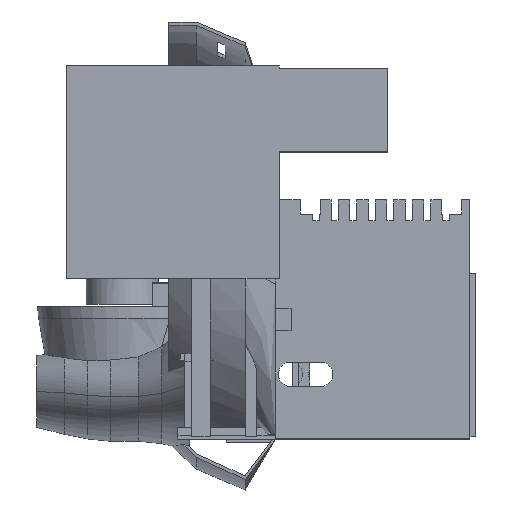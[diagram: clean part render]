
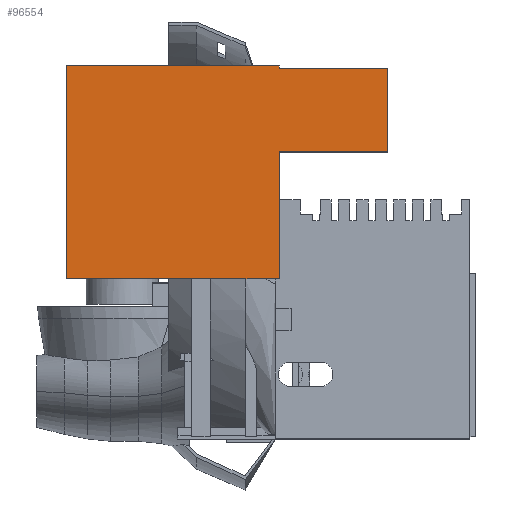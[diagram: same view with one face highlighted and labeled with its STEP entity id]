
A CAD part, front view. The second image highlights one B-rep face of the part: STEP entity #96554.
In plain terms, the highlighted planar face has unit normal (0, -1, 0).
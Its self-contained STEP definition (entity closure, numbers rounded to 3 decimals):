
#18044 = PLANE('',#18045);
#18045 = AXIS2_PLACEMENT_3D('',#18046,#18047,#18048);
#18046 = CARTESIAN_POINT('',(-101.379,-104.444,109.));
#18047 = DIRECTION('',(-0.,-0.,-1.));
#18048 = DIRECTION('',(-1.,0.,0.));
#50132 = VERTEX_POINT('',#50133);
#50133 = CARTESIAN_POINT('',(-62.4,-114.,109.));
#50147 = PLANE('',#50148);
#50148 = AXIS2_PLACEMENT_3D('',#50149,#50150,#50151);
#50149 = CARTESIAN_POINT('',(-62.4,-109.663,165.263));
#50150 = DIRECTION('',(1.,0.,0.));
#50151 = DIRECTION('',(0.,0.,1.));
#50159 = EDGE_CURVE('',#50160,#50132,#50162,.T.);
#50160 = VERTEX_POINT('',#50161);
#50161 = CARTESIAN_POINT('',(-154.,-114.,109.));
#50162 = SURFACE_CURVE('',#50163,(#50167,#50174),.PCURVE_S1.);
#50163 = LINE('',#50164,#50165);
#50164 = CARTESIAN_POINT('',(-154.,-114.,109.));
#50165 = VECTOR('',#50166,1.);
#50166 = DIRECTION('',(1.,0.,0.));
#50167 = PCURVE('',#18044,#50168);
#50168 = DEFINITIONAL_REPRESENTATION('',(#50169),#50173);
#50169 = LINE('',#50170,#50171);
#50170 = CARTESIAN_POINT('',(52.621,-9.556));
#50171 = VECTOR('',#50172,1.);
#50172 = DIRECTION('',(-1.,0.));
#50173 = ( GEOMETRIC_REPRESENTATION_CONTEXT(2) 
PARAMETRIC_REPRESENTATION_CONTEXT() REPRESENTATION_CONTEXT('2D SPACE',''
  ) );
#50174 = PCURVE('',#50175,#50180);
#50175 = PLANE('',#50176);
#50176 = AXIS2_PLACEMENT_3D('',#50177,#50178,#50179);
#50177 = CARTESIAN_POINT('',(-90.442,-114.,160.348));
#50178 = DIRECTION('',(-0.,-1.,-0.));
#50179 = DIRECTION('',(0.,0.,-1.));
#50180 = DEFINITIONAL_REPRESENTATION('',(#50181),#50185);
#50181 = LINE('',#50182,#50183);
#50182 = CARTESIAN_POINT('',(51.348,-63.558));
#50183 = VECTOR('',#50184,1.);
#50184 = DIRECTION('',(0.,1.));
#50185 = ( GEOMETRIC_REPRESENTATION_CONTEXT(2) 
PARAMETRIC_REPRESENTATION_CONTEXT() REPRESENTATION_CONTEXT('2D SPACE',''
  ) );
#50203 = PLANE('',#50204);
#50204 = AXIS2_PLACEMENT_3D('',#50205,#50206,#50207);
#50205 = CARTESIAN_POINT('',(-154.,-109.663,165.263));
#50206 = DIRECTION('',(-1.,-0.,-0.));
#50207 = DIRECTION('',(0.,0.,-1.));
#96506 = EDGE_CURVE('',#50160,#96507,#96509,.T.);
#96507 = VERTEX_POINT('',#96508);
#96508 = CARTESIAN_POINT('',(-154.,-114.,200.8));
#96509 = SURFACE_CURVE('',#96510,(#96514,#96521),.PCURVE_S1.);
#96510 = LINE('',#96511,#96512);
#96511 = CARTESIAN_POINT('',(-154.,-114.,109.));
#96512 = VECTOR('',#96513,1.);
#96513 = DIRECTION('',(0.,0.,1.));
#96514 = PCURVE('',#50203,#96515);
#96515 = DEFINITIONAL_REPRESENTATION('',(#96516),#96520);
#96516 = LINE('',#96517,#96518);
#96517 = CARTESIAN_POINT('',(56.263,4.337));
#96518 = VECTOR('',#96519,1.);
#96519 = DIRECTION('',(-1.,0.));
#96520 = ( GEOMETRIC_REPRESENTATION_CONTEXT(2) 
PARAMETRIC_REPRESENTATION_CONTEXT() REPRESENTATION_CONTEXT('2D SPACE',''
  ) );
#96521 = PCURVE('',#50175,#96522);
#96522 = DEFINITIONAL_REPRESENTATION('',(#96523),#96527);
#96523 = LINE('',#96524,#96525);
#96524 = CARTESIAN_POINT('',(51.348,-63.558));
#96525 = VECTOR('',#96526,1.);
#96526 = DIRECTION('',(-1.,0.));
#96527 = ( GEOMETRIC_REPRESENTATION_CONTEXT(2) 
PARAMETRIC_REPRESENTATION_CONTEXT() REPRESENTATION_CONTEXT('2D SPACE',''
  ) );
#96543 = PLANE('',#96544);
#96544 = AXIS2_PLACEMENT_3D('',#96545,#96546,#96547);
#96545 = CARTESIAN_POINT('',(-108.2,-99.3,200.8));
#96546 = DIRECTION('',(0.,0.,1.));
#96547 = DIRECTION('',(0.,1.,0.));
#96554 = ADVANCED_FACE('',(#96555),#50175,.T.);
#96555 = FACE_BOUND('',#96556,.T.);
#96556 = EDGE_LOOP('',(#96557,#96580,#96608,#96636,#96664,#96692,#96713,
    #96714));
#96557 = ORIENTED_EDGE('',*,*,#96558,.T.);
#96558 = EDGE_CURVE('',#50132,#96559,#96561,.T.);
#96559 = VERTEX_POINT('',#96560);
#96560 = CARTESIAN_POINT('',(-62.4,-114.,163.7));
#96561 = SURFACE_CURVE('',#96562,(#96566,#96573),.PCURVE_S1.);
#96562 = LINE('',#96563,#96564);
#96563 = CARTESIAN_POINT('',(-62.4,-114.,109.));
#96564 = VECTOR('',#96565,1.);
#96565 = DIRECTION('',(0.,0.,1.));
#96566 = PCURVE('',#50175,#96567);
#96567 = DEFINITIONAL_REPRESENTATION('',(#96568),#96572);
#96568 = LINE('',#96569,#96570);
#96569 = CARTESIAN_POINT('',(51.348,28.042));
#96570 = VECTOR('',#96571,1.);
#96571 = DIRECTION('',(-1.,0.));
#96572 = ( GEOMETRIC_REPRESENTATION_CONTEXT(2) 
PARAMETRIC_REPRESENTATION_CONTEXT() REPRESENTATION_CONTEXT('2D SPACE',''
  ) );
#96573 = PCURVE('',#50147,#96574);
#96574 = DEFINITIONAL_REPRESENTATION('',(#96575),#96579);
#96575 = LINE('',#96576,#96577);
#96576 = CARTESIAN_POINT('',(-56.263,4.337));
#96577 = VECTOR('',#96578,1.);
#96578 = DIRECTION('',(1.,0.));
#96579 = ( GEOMETRIC_REPRESENTATION_CONTEXT(2) 
PARAMETRIC_REPRESENTATION_CONTEXT() REPRESENTATION_CONTEXT('2D SPACE',''
  ) );
#96580 = ORIENTED_EDGE('',*,*,#96581,.T.);
#96581 = EDGE_CURVE('',#96559,#96582,#96584,.T.);
#96582 = VERTEX_POINT('',#96583);
#96583 = CARTESIAN_POINT('',(-15.5,-114.,163.7));
#96584 = SURFACE_CURVE('',#96585,(#96589,#96596),.PCURVE_S1.);
#96585 = LINE('',#96586,#96587);
#96586 = CARTESIAN_POINT('',(-66.,-114.,163.7));
#96587 = VECTOR('',#96588,1.);
#96588 = DIRECTION('',(1.,0.,0.));
#96589 = PCURVE('',#50175,#96590);
#96590 = DEFINITIONAL_REPRESENTATION('',(#96591),#96595);
#96591 = LINE('',#96592,#96593);
#96592 = CARTESIAN_POINT('',(-3.352,24.442));
#96593 = VECTOR('',#96594,1.);
#96594 = DIRECTION('',(0.,1.));
#96595 = ( GEOMETRIC_REPRESENTATION_CONTEXT(2) 
PARAMETRIC_REPRESENTATION_CONTEXT() REPRESENTATION_CONTEXT('2D SPACE',''
  ) );
#96596 = PCURVE('',#96597,#96602);
#96597 = PLANE('',#96598);
#96598 = AXIS2_PLACEMENT_3D('',#96599,#96600,#96601);
#96599 = CARTESIAN_POINT('',(-66.,-114.,163.7));
#96600 = DIRECTION('',(0.,0.,1.));
#96601 = DIRECTION('',(1.,0.,0.));
#96602 = DEFINITIONAL_REPRESENTATION('',(#96603),#96607);
#96603 = LINE('',#96604,#96605);
#96604 = CARTESIAN_POINT('',(0.,0.));
#96605 = VECTOR('',#96606,1.);
#96606 = DIRECTION('',(1.,0.));
#96607 = ( GEOMETRIC_REPRESENTATION_CONTEXT(2) 
PARAMETRIC_REPRESENTATION_CONTEXT() REPRESENTATION_CONTEXT('2D SPACE',''
  ) );
#96608 = ORIENTED_EDGE('',*,*,#96609,.T.);
#96609 = EDGE_CURVE('',#96582,#96610,#96612,.T.);
#96610 = VERTEX_POINT('',#96611);
#96611 = CARTESIAN_POINT('',(-15.5,-114.,199.6));
#96612 = SURFACE_CURVE('',#96613,(#96617,#96624),.PCURVE_S1.);
#96613 = LINE('',#96614,#96615);
#96614 = CARTESIAN_POINT('',(-15.5,-114.,163.7));
#96615 = VECTOR('',#96616,1.);
#96616 = DIRECTION('',(0.,0.,1.));
#96617 = PCURVE('',#50175,#96618);
#96618 = DEFINITIONAL_REPRESENTATION('',(#96619),#96623);
#96619 = LINE('',#96620,#96621);
#96620 = CARTESIAN_POINT('',(-3.352,74.942));
#96621 = VECTOR('',#96622,1.);
#96622 = DIRECTION('',(-1.,0.));
#96623 = ( GEOMETRIC_REPRESENTATION_CONTEXT(2) 
PARAMETRIC_REPRESENTATION_CONTEXT() REPRESENTATION_CONTEXT('2D SPACE',''
  ) );
#96624 = PCURVE('',#96625,#96630);
#96625 = PLANE('',#96626);
#96626 = AXIS2_PLACEMENT_3D('',#96627,#96628,#96629);
#96627 = CARTESIAN_POINT('',(-15.5,-107.862,181.66));
#96628 = DIRECTION('',(1.,0.,0.));
#96629 = DIRECTION('',(0.,0.,1.));
#96630 = DEFINITIONAL_REPRESENTATION('',(#96631),#96635);
#96631 = LINE('',#96632,#96633);
#96632 = CARTESIAN_POINT('',(-17.96,6.138));
#96633 = VECTOR('',#96634,1.);
#96634 = DIRECTION('',(1.,0.));
#96635 = ( GEOMETRIC_REPRESENTATION_CONTEXT(2) 
PARAMETRIC_REPRESENTATION_CONTEXT() REPRESENTATION_CONTEXT('2D SPACE',''
  ) );
#96636 = ORIENTED_EDGE('',*,*,#96637,.F.);
#96637 = EDGE_CURVE('',#96638,#96610,#96640,.T.);
#96638 = VERTEX_POINT('',#96639);
#96639 = CARTESIAN_POINT('',(-62.4,-114.,199.6));
#96640 = SURFACE_CURVE('',#96641,(#96645,#96652),.PCURVE_S1.);
#96641 = LINE('',#96642,#96643);
#96642 = CARTESIAN_POINT('',(-66.,-114.,199.6));
#96643 = VECTOR('',#96644,1.);
#96644 = DIRECTION('',(1.,0.,0.));
#96645 = PCURVE('',#50175,#96646);
#96646 = DEFINITIONAL_REPRESENTATION('',(#96647),#96651);
#96647 = LINE('',#96648,#96649);
#96648 = CARTESIAN_POINT('',(-39.252,24.442));
#96649 = VECTOR('',#96650,1.);
#96650 = DIRECTION('',(0.,1.));
#96651 = ( GEOMETRIC_REPRESENTATION_CONTEXT(2) 
PARAMETRIC_REPRESENTATION_CONTEXT() REPRESENTATION_CONTEXT('2D SPACE',''
  ) );
#96652 = PCURVE('',#96653,#96658);
#96653 = PLANE('',#96654);
#96654 = AXIS2_PLACEMENT_3D('',#96655,#96656,#96657);
#96655 = CARTESIAN_POINT('',(-38.95,-107.9,199.6));
#96656 = DIRECTION('',(0.,0.,1.));
#96657 = DIRECTION('',(1.,0.,0.));
#96658 = DEFINITIONAL_REPRESENTATION('',(#96659),#96663);
#96659 = LINE('',#96660,#96661);
#96660 = CARTESIAN_POINT('',(-27.05,-6.1));
#96661 = VECTOR('',#96662,1.);
#96662 = DIRECTION('',(1.,0.));
#96663 = ( GEOMETRIC_REPRESENTATION_CONTEXT(2) 
PARAMETRIC_REPRESENTATION_CONTEXT() REPRESENTATION_CONTEXT('2D SPACE',''
  ) );
#96664 = ORIENTED_EDGE('',*,*,#96665,.T.);
#96665 = EDGE_CURVE('',#96638,#96666,#96668,.T.);
#96666 = VERTEX_POINT('',#96667);
#96667 = CARTESIAN_POINT('',(-62.4,-114.,200.8));
#96668 = SURFACE_CURVE('',#96669,(#96673,#96680),.PCURVE_S1.);
#96669 = LINE('',#96670,#96671);
#96670 = CARTESIAN_POINT('',(-62.4,-114.,109.));
#96671 = VECTOR('',#96672,1.);
#96672 = DIRECTION('',(0.,0.,1.));
#96673 = PCURVE('',#50175,#96674);
#96674 = DEFINITIONAL_REPRESENTATION('',(#96675),#96679);
#96675 = LINE('',#96676,#96677);
#96676 = CARTESIAN_POINT('',(51.348,28.042));
#96677 = VECTOR('',#96678,1.);
#96678 = DIRECTION('',(-1.,0.));
#96679 = ( GEOMETRIC_REPRESENTATION_CONTEXT(2) 
PARAMETRIC_REPRESENTATION_CONTEXT() REPRESENTATION_CONTEXT('2D SPACE',''
  ) );
#96680 = PCURVE('',#96681,#96686);
#96681 = PLANE('',#96682);
#96682 = AXIS2_PLACEMENT_3D('',#96683,#96684,#96685);
#96683 = CARTESIAN_POINT('',(-62.4,-109.663,165.263));
#96684 = DIRECTION('',(1.,0.,0.));
#96685 = DIRECTION('',(0.,0.,1.));
#96686 = DEFINITIONAL_REPRESENTATION('',(#96687),#96691);
#96687 = LINE('',#96688,#96689);
#96688 = CARTESIAN_POINT('',(-56.263,4.337));
#96689 = VECTOR('',#96690,1.);
#96690 = DIRECTION('',(1.,0.));
#96691 = ( GEOMETRIC_REPRESENTATION_CONTEXT(2) 
PARAMETRIC_REPRESENTATION_CONTEXT() REPRESENTATION_CONTEXT('2D SPACE',''
  ) );
#96692 = ORIENTED_EDGE('',*,*,#96693,.F.);
#96693 = EDGE_CURVE('',#96507,#96666,#96694,.T.);
#96694 = SURFACE_CURVE('',#96695,(#96699,#96706),.PCURVE_S1.);
#96695 = LINE('',#96696,#96697);
#96696 = CARTESIAN_POINT('',(-154.,-114.,200.8));
#96697 = VECTOR('',#96698,1.);
#96698 = DIRECTION('',(1.,0.,0.));
#96699 = PCURVE('',#50175,#96700);
#96700 = DEFINITIONAL_REPRESENTATION('',(#96701),#96705);
#96701 = LINE('',#96702,#96703);
#96702 = CARTESIAN_POINT('',(-40.452,-63.558));
#96703 = VECTOR('',#96704,1.);
#96704 = DIRECTION('',(0.,1.));
#96705 = ( GEOMETRIC_REPRESENTATION_CONTEXT(2) 
PARAMETRIC_REPRESENTATION_CONTEXT() REPRESENTATION_CONTEXT('2D SPACE',''
  ) );
#96706 = PCURVE('',#96543,#96707);
#96707 = DEFINITIONAL_REPRESENTATION('',(#96708),#96712);
#96708 = LINE('',#96709,#96710);
#96709 = CARTESIAN_POINT('',(-14.7,45.8));
#96710 = VECTOR('',#96711,1.);
#96711 = DIRECTION('',(0.,-1.));
#96712 = ( GEOMETRIC_REPRESENTATION_CONTEXT(2) 
PARAMETRIC_REPRESENTATION_CONTEXT() REPRESENTATION_CONTEXT('2D SPACE',''
  ) );
#96713 = ORIENTED_EDGE('',*,*,#96506,.F.);
#96714 = ORIENTED_EDGE('',*,*,#50159,.T.);
